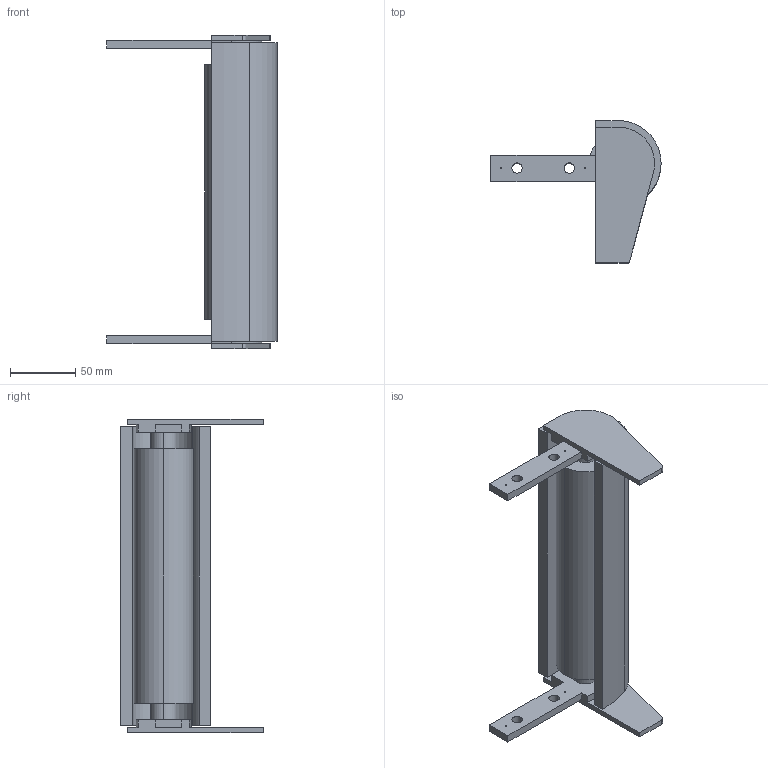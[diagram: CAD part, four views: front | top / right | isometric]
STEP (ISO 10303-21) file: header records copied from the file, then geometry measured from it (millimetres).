
FILE_DESCRIPTION (( 'STEP AP214' ), '1' );
FILE_NAME ('FS-160-MTS-100.ALU omloop 240.STEP', '2017-02-08T12:09:35', ( '' ), ( '' ), 'SwSTEP 2.0', 'SolidWorks 2016', '' );
FILE_SCHEMA (( 'AUTOMOTIVE_DESIGN' ));
Length unit declared in the file: millimetre
Products named in the file (1): FS-160-MTS-100.ALU omloop 240
Bounding box: 130.3 x 109 x 240 mm (x, y, z)
Volume: 634189.6 mm3; surface area: 122030.3 mm2
Topology: 2 solids, 2 shells, 70 faces, 186 edges, 124 vertices
Faces by surface type: cylinder 36, plane 34
Entity records: 2277 total; most frequent: DIRECTION 400, CARTESIAN_POINT 381, ORIENTED_EDGE 372, EDGE_CURVE 186, AXIS2_PLACEMENT_3D 143, VERTEX_POINT 124, VECTOR 114, LINE 114
